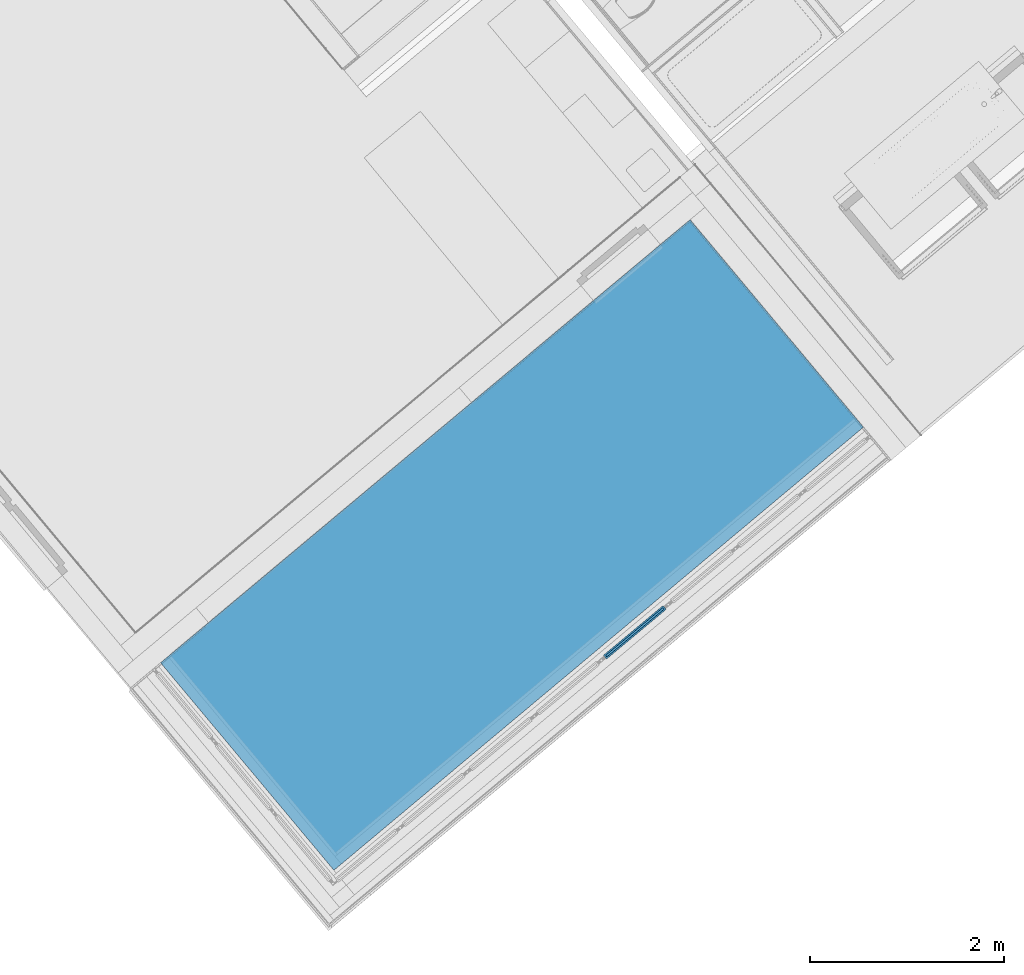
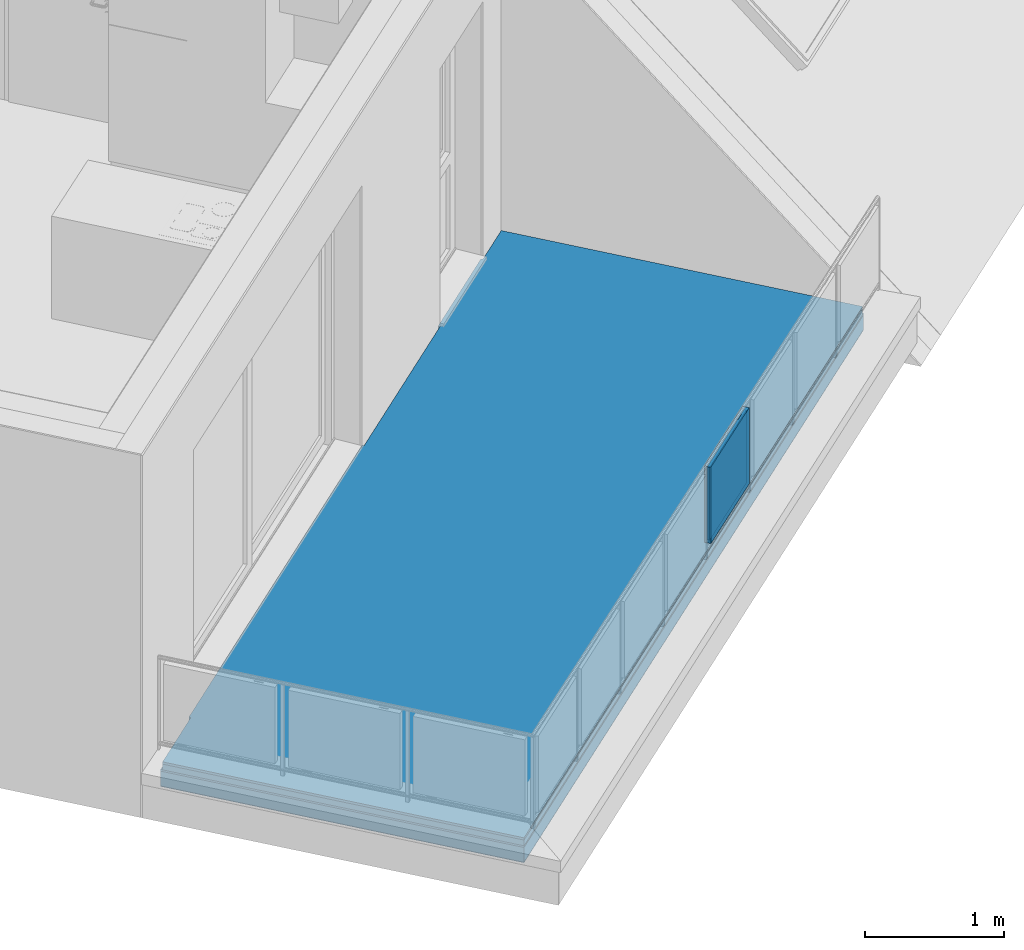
# One storey, part 15 of 47: 7 building element parts, 2 elements without a shape of their own.
"""IFC4 building model written with IfcOpenShell, lengths in metres."""

from ifc_helpers import new_model, entity, si_unit, converted_unit, derived_unit, direction, frame, origin_with_axes, place, context, subcontext, project, spatial, polygons, material, type_object, element, aggregate, save


model = new_model("IFC4")

# Units and contexts
model_context = context("Model", 3, precision=1e-05, world=origin_with_axes(), true_north=direction((0.0, 1.0)))
body_context = subcontext(model_context, "Body", "Model", "MODEL_VIEW")
ifc_project = project(units=[si_unit("LENGTHUNIT", "METRE"), si_unit("AREAUNIT", "SQUARE_METRE"), si_unit("VOLUMEUNIT", "CUBIC_METRE"), converted_unit("PLANEANGLEUNIT", "DEGREE", entity("IfcPlaneAngleMeasure", 0.0174532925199), si_unit("PLANEANGLEUNIT", "RADIAN"), dimensions=[0, 0, 0, 0, 0, 0, 0]), converted_unit("TIMEUNIT", "Year", entity("IfcTimeMeasure", 31556926.0), si_unit("TIMEUNIT", "SECOND"), dimensions=[0, 0, 1, 0, 0, 0, 0]), si_unit("MASSUNIT", "GRAM", prefix="KILO"), si_unit("THERMODYNAMICTEMPERATUREUNIT", "DEGREE_CELSIUS"), si_unit("LUMINOUSINTENSITYUNIT", "LUMEN"), si_unit("ENERGYUNIT", "JOULE", prefix="MEGA"), derived_unit("THERMALCONDUCTANCEUNIT", [(si_unit("POWERUNIT", "WATT"), 1), (si_unit("LENGTHUNIT", "METRE"), -1), (si_unit("THERMODYNAMICTEMPERATUREUNIT", "KELVIN"), -1)]), derived_unit("SPECIFICHEATCAPACITYUNIT", [(si_unit("ENERGYUNIT", "JOULE"), 1), (si_unit("MASSUNIT", "GRAM", prefix="KILO"), -1), (si_unit("THERMODYNAMICTEMPERATUREUNIT", "KELVIN"), -1)]), derived_unit("MASSDENSITYUNIT", [(si_unit("MASSUNIT", "GRAM", prefix="KILO"), 1), (si_unit("VOLUMEUNIT", "CUBIC_METRE"), -1)])], contexts=[model_context])

# Site, building, storey
site_placement = place(None, frame((-0.00153261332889, -0.00661245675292, 0.0), z_axis=(0.0, 0.0, 1.0), x_axis=(1.0, 0.0, 0.0)))
site = spatial("IfcSite", under=ifc_project, at=site_placement, Name="Site", CompositionType="ELEMENT")
building_placement = place(site_placement, origin_with_axes())
building = spatial("IfcBuilding", under=site, at=building_placement, Name="Building", CompositionType="ELEMENT")
storey_placement = place(building_placement, frame((0.0, 0.0, 8.66), z_axis=(0.0, 0.0, 1.0), x_axis=(1.0, 0.0, 0.0)))
storey = spatial("IfcBuildingStorey", under=building, at=storey_placement, Name="DG2", CompositionType="ELEMENT", Elevation=8.66)

# Covering, building element parts
covering_type = type_object("IfcCoveringType", Name="Balkon vor Terrasse 220", PredefinedType="NOTDEFINED")
covering_placement = place(storey_placement, frame((-2.99015431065, 12.852759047, 0.0), z_axis=(0.0, 0.0, 1.0), x_axis=(1.0, 0.0, 0.0)))
covering = element("IfcCovering", 1, at=covering_placement, inside=storey, type_object=covering_type, Name="Decke-005", PredefinedType="NOTDEFINED")
ifc_material_1 = material(Name="Platten")
building_element_part_1_placement = place(covering_placement, origin_with_axes())
building_element_part_1 = element("IfcBuildingElementPart", 2, at=building_element_part_1_placement, material=ifc_material_1, Name="Platten", PredefinedType="NOTDEFINED", context=body_context, shape_type="Tessellation", body=[
    polygons([(7.22371968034, 2.41545678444, 0.2), (7.22371968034, 2.41545678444, 0.22), (1.78439120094, -2.13565510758, 0.22), (1.78439120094, -2.13565510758, 0.2), (5.44883995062, 4.53951213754, 0.22), (5.44883995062, 4.53951213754, 0.2), (5.1556124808, 4.2941673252, 0.22), (5.14598684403, 4.3056715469, 0.22), (4.45573354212, 3.72813334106, 0.22), (4.46535917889, 3.71662911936, 0.22), (3.25023922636, 2.69993250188, 0.22), (3.24061358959, 2.71143672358, 0.22), (0.455075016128, 0.380763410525, 0.22), (0.464700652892, 0.369259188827, 0.22), (0.00961764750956, -0.0115109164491, 0.22), (0.00961764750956, -0.0115109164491, 0.2), (0.464700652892, 0.369259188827, 0.2), (0.455075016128, 0.380763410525, 0.2), (3.24061358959, 2.71143672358, 0.2), (3.25023922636, 2.69993250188, 0.2), (4.46535917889, 3.71662911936, 0.2), (4.45573354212, 3.72813334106, 0.2), (5.14598684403, 4.3056715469, 0.2), (5.1556124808, 4.2941673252, 0.2)], [[[1, 2, 3, 4]], [[5, 2, 1, 6]], [[2, 5, 7, 8, 9, 10, 11, 12, 13, 14, 15, 3]], [[15, 16, 4, 3]], [[6, 1, 4, 16, 17, 18, 19, 20, 21, 22, 23, 24]], [[5, 6, 24, 7]], [[8, 7, 24, 23]], [[22, 9, 8, 23]], [[10, 9, 22, 21]], [[11, 10, 21, 20]], [[12, 11, 20, 19]], [[18, 13, 12, 19]], [[14, 13, 18, 17]], [[15, 14, 17, 16]]], closed=True),
])
ifc_material_2 = material(Name="Luftschicht horizontal")
building_element_part_2_placement = place(covering_placement, origin_with_axes())
building_element_part_2 = element("IfcBuildingElementPart", 3, at=building_element_part_2_placement, material=ifc_material_2, Name="Luftschicht horizontal", PredefinedType="NOTDEFINED", context=body_context, shape_type="Tessellation", body=[
    polygons([(7.22371968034, 2.41545678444, 0.15), (7.22371968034, 2.41545678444, 0.2), (1.78439120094, -2.13565510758, 0.2), (1.78439120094, -2.13565510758, 0.15), (5.44883995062, 4.53951213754, 0.2), (5.44883995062, 4.53951213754, 0.15), (5.1556124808, 4.2941673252, 0.2), (5.14598684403, 4.3056715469, 0.2), (4.45573354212, 3.72813334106, 0.2), (4.46535917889, 3.71662911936, 0.2), (3.25023922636, 2.69993250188, 0.2), (3.24061358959, 2.71143672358, 0.2), (0.455075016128, 0.380763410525, 0.2), (0.464700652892, 0.369259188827, 0.2), (0.00961764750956, -0.0115109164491, 0.2), (0.00961764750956, -0.0115109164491, 0.15), (0.464700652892, 0.369259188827, 0.15), (0.455075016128, 0.380763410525, 0.15), (3.24061358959, 2.71143672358, 0.15), (3.25023922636, 2.69993250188, 0.15), (4.46535917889, 3.71662911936, 0.15), (4.45573354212, 3.72813334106, 0.15), (5.14598684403, 4.3056715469, 0.15), (5.1556124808, 4.2941673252, 0.15)], [[[1, 2, 3, 4]], [[5, 2, 1, 6]], [[2, 5, 7, 8, 9, 10, 11, 12, 13, 14, 15, 3]], [[15, 16, 4, 3]], [[6, 1, 4, 16, 17, 18, 19, 20, 21, 22, 23, 24]], [[5, 6, 24, 7]], [[8, 7, 24, 23]], [[22, 9, 8, 23]], [[10, 9, 22, 21]], [[11, 10, 21, 20]], [[12, 11, 20, 19]], [[18, 13, 12, 19]], [[14, 13, 18, 17]], [[15, 14, 17, 16]]], closed=True),
])
ifc_material_3 = material(Name="Sperrschicht")
building_element_part_3_placement = place(covering_placement, origin_with_axes())
building_element_part_3 = element("IfcBuildingElementPart", 4, at=building_element_part_3_placement, material=ifc_material_3, Name="Sperrschicht", PredefinedType="NOTDEFINED", context=body_context, shape_type="Tessellation", body=[
    polygons([(1.78439120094, -2.13565510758, 0.135), (1.78439120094, -2.13565510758, 0.15), (0.0, 0.0, 0.15), (0.0, 0.0, 0.135), (7.23522390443, 2.4250824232, 0.135), (7.23522390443, 2.4250824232, 0.15), (5.4507259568, 4.56064820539, 0.15), (5.4507259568, 4.56064820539, 0.135)], [[[1, 2, 3, 4]], [[5, 6, 2, 1]], [[3, 2, 6, 7]], [[4, 3, 7, 8]], [[4, 8, 5, 1]], [[8, 7, 6, 5]]], closed=True),
])
ifc_material_4 = material(Name="XPS")
building_element_part_4_placement = place(covering_placement, origin_with_axes())
building_element_part_4 = element("IfcBuildingElementPart", 5, at=building_element_part_4_placement, material=ifc_material_4, Name="XPS", PredefinedType="NOTDEFINED", context=body_context, shape_type="Tessellation", body=[
    polygons([(1.78439120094, -2.13565510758, 0.005), (1.78439120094, -2.13565510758, 0.135), (0.0, 0.0, 0.135), (0.0, 0.0, 0.005), (7.23522390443, 2.4250824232, 0.005), (7.23522390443, 2.4250824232, 0.135), (5.4507259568, 4.56064820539, 0.135), (5.4507259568, 4.56064820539, 0.005)], [[[1, 2, 3, 4]], [[5, 6, 2, 1]], [[3, 2, 6, 7]], [[4, 3, 7, 8]], [[4, 8, 5, 1]], [[8, 7, 6, 5]]], closed=True),
])
building_element_part_5_placement = place(covering_placement, origin_with_axes())
building_element_part_5 = element("IfcBuildingElementPart", 6, at=building_element_part_5_placement, material=ifc_material_3, Name="Sperrschicht", PredefinedType="NOTDEFINED", context=body_context, shape_type="Tessellation", body=[
    polygons([(0.0, 0.0, 0.0), (1.78439120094, -2.13565510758, 0.0), (1.78439120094, -2.13565510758, 0.005), (0.0, 0.0, 0.005), (5.4507259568, 4.56064820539, 0.0), (7.23522390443, 2.4250824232, 0.0), (7.23522390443, 2.4250824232, 0.005), (5.4507259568, 4.56064820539, 0.005)], [[[1, 2, 3, 4]], [[1, 5, 6, 2]], [[2, 6, 7, 3]], [[4, 3, 7, 8]], [[5, 1, 4, 8]], [[6, 5, 8, 7]]], closed=True),
])
aggregate(covering, [building_element_part_1, building_element_part_2, building_element_part_3, building_element_part_4, building_element_part_5])

# Railing, building element parts
railing_type = type_object("IfcRailingType", Name="Geländerart", PredefinedType="NOTDEFINED")
railing_placement = place(storey_placement, frame((-3.01466342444, 12.8116891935, 0.38), z_axis=(0.0, 0.0, 1.0), x_axis=(1.0, 0.0, 0.0)))
railing = element("IfcRailing", 7, at=railing_placement, inside=storey, type_object=railing_type, Name="Geländer - 001", PredefinedType="NOTDEFINED")
ifc_material_5 = material(Name="Profilit")
building_element_part_6_placement = place(railing_placement, origin_with_axes())
building_element_part_6 = element("IfcBuildingElementPart", 8, at=building_element_part_6_placement, material=ifc_material_5, Name="Profilit", PredefinedType="NOTDEFINED", context=body_context, shape_type="Tessellation", body=[
    polygons([(5.19569313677, 0.608795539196, 0.135), (4.60535705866, 0.11714497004, 0.135), (4.60535705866, 0.11714497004, 0.775), (5.19569313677, 0.608795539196, 0.775), (4.61815619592, 0.101776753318, 0.135), (5.20849227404, 0.593427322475, 0.135), (4.61815619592, 0.101776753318, 0.775), (5.20849227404, 0.593427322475, 0.775)], [[[1, 2, 3, 4]], [[5, 2, 1, 6]], [[7, 3, 2, 5]], [[4, 3, 7, 8]], [[1, 4, 8, 6]], [[7, 5, 6, 8]]], closed=True),
])
ifc_material_6 = material(Name="Aluminium")
building_element_part_7_placement = place(railing_placement, origin_with_axes())
building_element_part_7 = element("IfcBuildingElementPart", 9, at=building_element_part_7_placement, material=ifc_material_6, Name="Aluminium", PredefinedType="NOTDEFINED", context=body_context, shape_type="Tessellation", body=[
    polygons([(4.6754716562, 0.165778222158, 0.12), (4.72926041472, 0.210575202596, 0.12), (4.72926041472, 0.210575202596, 0.095), (4.6754716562, 0.165778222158, 0.095), (4.67867144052, 0.161936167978, 0.12), (4.73246019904, 0.206733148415, 0.12), (4.73246019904, 0.206733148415, 0.095), (4.67867144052, 0.161936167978, 0.095)], [[[1, 2, 3, 4]], [[5, 6, 2, 1]], [[2, 6, 7, 3]], [[4, 3, 7, 8]], [[1, 4, 8, 5]], [[8, 7, 6, 5]]], closed=True),
    polygons([(5.13517789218, 0.548636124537, 0.79), (5.08138913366, 0.503839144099, 0.79), (5.08138913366, 0.503839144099, 0.795), (5.13517789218, 0.548636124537, 0.795), (5.1383776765, 0.544794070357, 0.79), (5.08458891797, 0.499997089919, 0.79), (5.08458891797, 0.499997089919, 0.795), (5.1383776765, 0.544794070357, 0.795)], [[[1, 2, 3, 4]], [[5, 6, 2, 1]], [[2, 6, 7, 3]], [[4, 3, 7, 8]], [[1, 4, 8, 5]], [[8, 7, 6, 5]]], closed=True),
    polygons([(4.61622938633, 0.0806512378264, 0.12), (4.58423154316, 0.11907177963, 0.12), (5.19761994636, 0.629921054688, 0.12), (5.22961778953, 0.591500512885, 0.12), (4.63159760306, 0.0934503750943, 0.14), (4.6219982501, 0.104976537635, 0.14), (4.61815619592, 0.101776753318, 0.135), (4.60535705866, 0.11714497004, 0.135), (4.60919911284, 0.120344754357, 0.14), (4.59959975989, 0.131870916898, 0.14), (5.18225172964, 0.61712191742, 0.14), (5.18225172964, 0.61712191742, 0.77), (4.59959975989, 0.131870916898, 0.77), (4.59959975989, 0.131870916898, 0.14), (4.58423154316, 0.11907177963, 0.12), (4.58423154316, 0.11907177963, 0.79), (5.19761994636, 0.629921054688, 0.79), (5.22961778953, 0.591500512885, 0.79), (4.61622938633, 0.0806512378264, 0.79), (4.61622938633, 0.0806512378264, 0.12), (4.63159760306, 0.0934503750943, 0.14), (4.63159760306, 0.0934503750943, 0.77), (5.21424957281, 0.578701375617, 0.77), (5.21424957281, 0.578701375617, 0.14), (5.20465021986, 0.590227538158, 0.14), (5.20465021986, 0.590227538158, 0.77), (4.6219982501, 0.104976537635, 0.77), (4.6219982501, 0.104976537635, 0.14), (4.61815619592, 0.101776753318, 0.135), (4.61815619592, 0.101776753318, 0.775), (5.20849227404, 0.593427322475, 0.775), (5.20849227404, 0.593427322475, 0.135), (5.19569313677, 0.608795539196, 0.135), (5.19569313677, 0.608795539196, 0.775), (4.60535705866, 0.11714497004, 0.775), (4.60535705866, 0.11714497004, 0.135), (4.60919911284, 0.120344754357, 0.14), (4.60919911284, 0.120344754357, 0.77), (5.19185108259, 0.605595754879, 0.77), (5.19185108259, 0.605595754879, 0.14)], [[[1, 2, 3, 4]], [[1, 5, 6, 7, 8, 9, 10, 2]], [[2, 10, 11, 12, 13, 14, 15, 16, 17, 3]], [[4, 3, 17, 18]], [[5, 1, 4, 18, 19, 20, 21, 22, 23, 24]], [[6, 5, 24, 25]], [[7, 6, 25, 26, 27, 28, 29, 30, 31, 32]], [[8, 7, 32, 33]], [[9, 8, 33, 34, 35, 36, 37, 38, 39, 40]], [[10, 9, 40, 11]], [[11, 40, 39, 12]], [[12, 39, 38, 13]], [[13, 38, 37, 14]], [[20, 15, 14, 37, 36, 29, 28, 21]], [[19, 16, 15, 20]], [[18, 17, 16, 19]], [[27, 22, 21, 28]], [[26, 23, 22, 27]], [[25, 24, 23, 26]], [[35, 30, 29, 36]], [[34, 31, 30, 35]], [[33, 32, 31, 34]]], closed=True),
])
aggregate(railing, [building_element_part_6, building_element_part_7])

save(model, "model.ifc")
